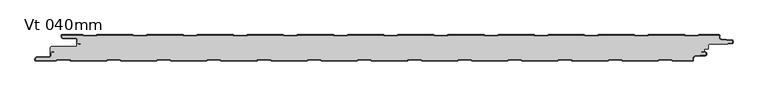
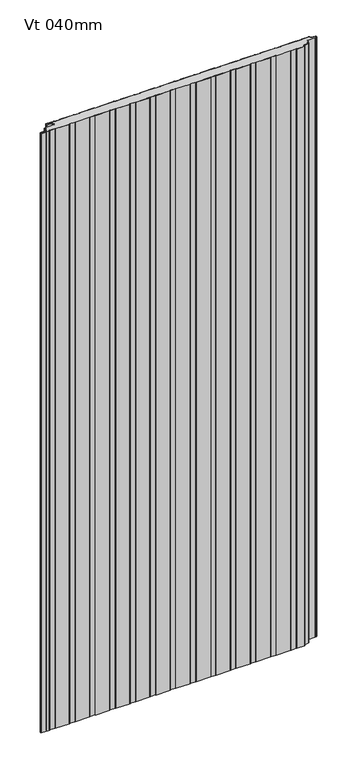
"""IFC4 building model written with IfcOpenShell, lengths in millimetres: plate geometry, KIP-MEX-FW-R19-CP-Vt-SL : Vt 040mm."""

from ifc_helpers import new_model, si_unit, point, frame_2d, origin, origin_with_axes, place, context, project, spatial, polyline, circle_curve, trimmed, segment, composite_curve, outline, extrude, source, transform, mapped, element, save


def vt_040mm_eb3b59d4(model_context):
    return source(origin(), model_context, "Body", "SweptSolid", [
        extrude(outline(composite_curve([segment(trimmed(circle_curve(frame_2d((500.9783297, -16.1665726)), 2.0000146), [point((500.9783297, -14.166558))], [point((498.9783151, -16.1665726))], True, "CARTESIAN"), True, "CONTINUOUS"), segment(polyline([(498.9783151, -16.1665726), (498.9783151, -20.7508382)]), True, "CONTINUOUS"), segment(trimmed(circle_curve(frame_2d((497.9783141, -20.7508382)), 1.0000009), [point((498.9783151, -20.7508382))], [point((497.9783141, -21.7508392))], False, "CARTESIAN"), True, "CONTINUOUS"), segment(polyline([(497.9783141, -21.7508392), (492.7282913, -21.7508392), (492.7282913, -26.1909155), (488.6576517, -25.8347828), (488.5704965, -26.8309775), (494.3590279, -27.3374055)]), True, "CONTINUOUS"), segment(trimmed(circle_curve(frame_2d((494.228289, -28.8317673)), 1.50007), [point((494.3590279, -27.3374055))], [point((495.4949849, -28.028218))], False, "CARTESIAN"), True, "CONTINUOUS"), segment(polyline([(495.4949849, -28.028218), (495.4949849, -30.4105427)]), True, "CONTINUOUS"), segment(trimmed(circle_curve(frame_2d((494.228289, -29.6069933)), 1.50007), [point((495.4949849, -30.4105427))], [point((494.3590282, -31.1013552))], False, "CARTESIAN"), True, "CONTINUOUS"), segment(polyline([(494.3590282, -31.1013552), (478.2363019, -32.511906)]), True, "CONTINUOUS"), segment(trimmed(circle_curve(frame_2d((478.4977739, -35.5005555)), 3.0000656), [point((478.2363019, -32.511906))], [point((475.4977083, -35.5005555))], True, "CARTESIAN"), True, "CONTINUOUS"), segment(polyline([(475.4977083, -35.5005555), (475.4977083, -39.000497), (444.7191033, -39.000497), (443.6340048, -37.8014618), (423.7020265, -37.8014618), (422.6155022, -39.0009609), (368.5676443, -39.0009609), (367.48112, -37.8014618), (347.5491417, -37.8014618), (346.4626174, -39.0009609), (292.4147596, -39.0009609), (291.3282353, -37.8014618), (271.396257, -37.8014618), (270.3097327, -39.0009609), (216.2618748, -39.0009609), (215.1753505, -37.8014618), (195.2433722, -37.8014618), (194.1568479, -39.0009609), (140.10899, -39.0009609), (139.0224658, -37.8014618), (119.0904874, -37.8014618), (118.0039632, -39.0009609), (63.9561053, -39.0009609), (62.869581, -37.8014618), (42.9376027, -37.8014618), (41.8510784, -39.0009609), (-12.1967795, -39.0009609), (-13.2833038, -37.8014618), (-33.2152821, -37.8014618), (-34.3018064, -39.0009609), (-88.3496642, -39.0009609), (-89.4361885, -37.8014618), (-109.3681669, -37.8014618), (-110.4546911, -39.0009609), (-164.502549, -39.0009609), (-165.5890733, -37.8014618), (-185.5210516, -37.8014618), (-186.6075759, -39.0009609), (-240.6554338, -39.0009609), (-241.741958, -37.8014618), (-261.6739364, -37.8014618), (-262.7604607, -39.0009609), (-316.8083185, -39.0009609), (-317.8948428, -37.8014618), (-337.8268211, -37.8014618), (-338.9133454, -39.0009609), (-392.9612033, -39.0009609), (-394.0477276, -37.8014618), (-413.9797059, -37.8014618), (-415.0662302, -39.0009609), (-469.1112369, -39.0009609), (-470.1991867, -37.799888), (-490.1311651, -37.799888), (-491.2176894, -38.9993871), (-522.5021472, -38.9993871), (-522.5021472, -37.5006639)]), True, "CONTINUOUS"), segment(trimmed(circle_curve(frame_2d((-520.0023509, -37.5006639)), 2.4997964), [point((-522.5021472, -37.5006639))], [point((-520.0023509, -35.0008676))], False, "CARTESIAN"), True, "CONTINUOUS"), segment(polyline([(-520.0023509, -35.0008676), (-502.0013909, -35.0008676)]), True, "CONTINUOUS"), segment(trimmed(circle_curve(frame_2d((-502.0013909, -32.000146)), 3.0007216), [point((-502.0013909, -35.0008676))], [point((-499.0006702, -32.0023906))], True, "CARTESIAN"), True, "CONTINUOUS"), segment(polyline([(-499.0006702, -32.0023906), (-499.0006702, -28.4060224)]), True, "CONTINUOUS"), segment(trimmed(circle_curve(frame_2d((-497.5003, -28.4060224)), 1.5003702), [point((-499.0006702, -28.4060224))], [point((-497.7599015, -26.9282816))], False, "CARTESIAN"), True, "CONTINUOUS"), segment(polyline([(-497.7599015, -26.9282816), (-494.2177275, -26.3060118), (-494.3907152, -25.321306), (-497.9325337, -25.9435134)]), True, "CONTINUOUS"), segment(trimmed(circle_curve(frame_2d((-497.4999652, -28.4058419)), 2.5000354), [point((-497.9325337, -25.9435134))], [point((-500.0000002, -28.4043575))], True, "CARTESIAN"), True, "CONTINUOUS"), segment(polyline([(-500.0000002, -28.4043575), (-500.0000002, -20.2508434)]), True, "CONTINUOUS"), segment(trimmed(circle_curve(frame_2d((-497.9999885, -20.2508434)), 2.0000117), [point((-500.0000002, -20.2508434))], [point((-497.9999885, -18.2508317))], False, "CARTESIAN"), True, "CONTINUOUS"), segment(polyline([(-497.9999885, -18.2508317), (-461.9999862, -18.2508317)]), True, "CONTINUOUS"), segment(trimmed(circle_curve(frame_2d((-461.9999862, -16.2508396)), 1.9999921), [point((-461.9999862, -18.2508317))], [point((-459.9999941, -16.2508396))], True, "CARTESIAN"), True, "CONTINUOUS"), segment(polyline([(-459.9999941, -16.2508396), (-459.9999941, -11.5969833)]), True, "CONTINUOUS"), segment(trimmed(circle_curve(frame_2d((-457.4999722, -11.5955126)), 2.5000223), [point((-459.9999941, -11.5969833))], [point((-457.9325372, -14.0578284))], True, "CARTESIAN"), True, "CONTINUOUS"), segment(polyline([(-457.9325372, -14.0578284), (-454.3907164, -14.6800343), (-454.2177293, -13.6953293), (-457.7599069, -13.0730607)]), True, "CONTINUOUS"), segment(trimmed(circle_curve(frame_2d((-457.5003083, -11.5953315)), 1.5003583), [point((-457.7599069, -13.0730607))], [point((-459.0006665, -11.5953315))], False, "CARTESIAN"), True, "CONTINUOUS"), segment(polyline([(-459.0006665, -11.5953315), (-459.0006665, -7.9991027)]), True, "CONTINUOUS"), segment(trimmed(circle_curve(frame_2d((-462.0013897, -8.0011955)), 3.0007239), [point((-459.0006665, -7.9991027))], [point((-462.0013897, -5.0004716))], True, "CARTESIAN"), True, "CONTINUOUS"), segment(polyline([(-462.0013897, -5.0004716), (-480.0023525, -5.0004716)]), True, "CONTINUOUS"), segment(trimmed(circle_curve(frame_2d((-480.0023525, -2.5006761)), 2.4997955), [point((-480.0023525, -5.0004716))], [point((-482.5021468, -2.4982924))], False, "CARTESIAN"), True, "CONTINUOUS"), segment(polyline([(-482.5021468, -2.4982924), (-482.5021468, -1.0030389), (-451.2001499, -1.0030389), (-450.1136256, -2.202538), (-430.1816473, -2.202538), (-429.0936975, -1.0014651), (-375.0486907, -1.0014651), (-373.9621665, -2.2009642), (-354.0301881, -2.2009642), (-352.9436639, -1.0014651), (-298.895806, -1.0014651), (-297.8092817, -2.2009642), (-277.8773034, -2.2009642), (-276.7922049, -1.0014651), (-222.7429212, -1.0014651), (-221.6563969, -2.2009642), (-201.7244186, -2.2009642), (-200.6393201, -1.0014651), (-146.5900365, -1.0014651), (-145.5035122, -2.2009642), (-125.5715339, -2.2009642), (-124.4850096, -1.0014651), (-70.4371517, -1.0014651), (-69.3506274, -2.2009642), (-49.4186491, -2.2009642), (-48.3321248, -1.0014651), (5.7157331, -1.0014651), (6.8022573, -2.2009642), (26.7342357, -2.2009642), (27.8207599, -1.0014651), (81.8686178, -1.0014651), (82.9551421, -2.2009642), (102.8871204, -2.2009642), (103.9722189, -1.0014651), (158.0215026, -1.0014651), (159.1080269, -2.2009642), (179.0400052, -2.2009642), (180.1251037, -1.0014651), (234.1743873, -1.0014651), (235.2609116, -2.2009642), (255.1928899, -2.2009642), (256.2779885, -1.0014651), (310.3272721, -1.0014651), (311.4137964, -2.2009642), (331.3457747, -2.2009642), (332.4308732, -1.0014651), (386.4801569, -1.0014651), (387.5666811, -2.2009642), (407.4986595, -2.2009642), (408.5851837, -1.0014651), (462.6330416, -1.0014651), (463.7195659, -2.2009642), (483.6515442, -2.2009642), (484.7366427, -1.0008336), (515.4976697, -1.0008336), (515.4976697, -4.5007907)]), True, "CONTINUOUS"), segment(trimmed(circle_curve(frame_2d((518.4977212, -4.5007907)), 3.0000515), [point((515.4976697, -4.5007907))], [point((518.236249, -7.4894261))], True, "CARTESIAN"), True, "CONTINUOUS"), segment(polyline([(518.236249, -7.4894261), (534.3589903, -8.8999856)]), True, "CONTINUOUS"), segment(trimmed(circle_curve(frame_2d((534.2282504, -10.3943474)), 1.50007), [point((534.3589903, -8.8999856))], [point((535.60777, -9.8051653))], False, "CARTESIAN"), True, "CONTINUOUS"), segment(polyline([(535.60777, -9.8051653), (535.60777, -11.7587555)]), True, "CONTINUOUS"), segment(trimmed(circle_curve(frame_2d((534.2282504, -11.1695734)), 1.50007), [point((535.60777, -11.7587555))], [point((534.3589893, -12.6639353))], False, "CARTESIAN"), True, "CONTINUOUS"), segment(polyline([(534.3589893, -12.6639353), (528.57059, -13.1703517), (528.6576132, -14.166558), (500.9783297, -14.166558)]), True, "CONTINUOUS")], self_intersect=False)), origin_with_axes(), (0.0, 0.0, 1.0), 2400.0),
        extrude(outline(composite_curve([segment(trimmed(circle_curve(frame_2d((534.2282504, -10.3918055)), 2.50007), [point((534.4461462, -7.9012491))], [point((536.6327024, -9.7069984))], False, "CARTESIAN"), True, "CONTINUOUS"), segment(polyline([(536.6327024, -9.7069984), (536.6327024, -11.8518387)]), True, "CONTINUOUS"), segment(trimmed(circle_curve(frame_2d((534.2282504, -11.1670315)), 2.50007), [point((536.6327024, -11.8518387))], [point((534.4461446, -13.6575882))], False, "CARTESIAN"), True, "CONTINUOUS"), segment(polyline([(534.4461446, -13.6575882), (528.6576132, -14.1640161), (528.5704579, -13.1678214), (534.3589893, -12.6613934)]), True, "CONTINUOUS"), segment(trimmed(circle_curve(frame_2d((534.2282504, -11.1670315)), 1.50007), [point((534.3589893, -12.6613934))], [point((535.60777, -11.7562137))], True, "CARTESIAN"), True, "CONTINUOUS"), segment(polyline([(535.60777, -11.7562137), (535.60777, -9.8026234)]), True, "CONTINUOUS"), segment(trimmed(circle_curve(frame_2d((534.2282504, -10.3918055)), 1.50007), [point((535.60777, -9.8026234))], [point((534.3589903, -8.8974438))], True, "CARTESIAN"), True, "CONTINUOUS"), segment(polyline([(534.3589903, -8.8974438), (518.236249, -7.4868842)]), True, "CONTINUOUS"), segment(trimmed(circle_curve(frame_2d((518.4977212, -4.4982488)), 3.0000515), [point((518.236249, -7.4868842))], [point((515.4976697, -4.4982488))], False, "CARTESIAN"), True, "CONTINUOUS"), segment(polyline([(515.4976697, -4.4982488), (515.4976697, -0.9982918), (484.7366427, -0.9982918), (483.6515442, -2.1984224), (463.7195659, -2.1984224), (462.6330416, -0.9989232), (408.5851837, -0.9989232), (407.4986595, -2.1984224), (387.5666811, -2.1984224), (386.4801569, -0.9989232), (332.432299, -0.9989232), (331.3457747, -2.1984224), (311.4137964, -2.1984224), (310.3272721, -0.9989232), (256.2779885, -0.9989232), (255.1928899, -2.1984224), (235.2609116, -2.1984224), (234.1743873, -0.9989232), (180.1265295, -0.9989232), (179.0400052, -2.1984224), (159.1080269, -2.1984224), (158.0215026, -0.9989232), (103.9722189, -0.9989232), (102.8871204, -2.1984224), (82.9551421, -2.1984224), (81.8686178, -0.9989232), (27.8207599, -0.9989232), (26.7342357, -2.1984224), (6.8022573, -2.1984224), (5.7157331, -0.9989232), (-48.3335506, -0.9989232), (-49.4186491, -2.1984224), (-69.3506274, -2.1984224), (-70.4371517, -0.9989232), (-124.4864353, -0.9989232), (-125.5715339, -2.1984224), (-145.5035122, -2.1984224), (-146.5900365, -0.9989232), (-200.6378943, -0.9989232), (-201.7244186, -2.1984224), (-221.6563969, -2.1984224), (-222.7429212, -0.9989232), (-276.7907791, -0.9989232), (-277.8773034, -2.1984224), (-297.8092817, -2.1984224), (-298.895806, -0.9989232), (-352.9436639, -0.9989232), (-354.0301881, -2.1984224), (-373.9621665, -2.1984224), (-375.0486907, -0.9989232), (-429.0936975, -0.9989232), (-430.1816473, -2.1999962), (-450.1136256, -2.1999962), (-451.198772, -0.9983019), (-482.5021495, -0.9983019), (-482.5021495, -2.4981361)]), True, "CONTINUOUS"), segment(trimmed(circle_curve(frame_2d((-480.0023517, -2.4981361)), 2.4997977), [point((-482.5021495, -2.4981361))], [point((-480.0023517, -4.9979338))], True, "CARTESIAN"), True, "CONTINUOUS"), segment(polyline([(-480.0023517, -4.9979338), (-462.0013975, -4.9979338)]), True, "CONTINUOUS"), segment(trimmed(circle_curve(frame_2d((-462.0013975, -7.9986497)), 3.0007159), [point((-462.0013975, -4.9979338))], [point((-459.0006824, -7.996557))], False, "CARTESIAN"), True, "CONTINUOUS"), segment(polyline([(-459.0006824, -7.996557), (-459.0006824, -11.5928161)]), True, "CONTINUOUS"), segment(trimmed(circle_curve(frame_2d((-457.5002995, -11.5928161)), 1.5003829), [point((-459.0006824, -11.5928161))], [point((-457.7598389, -13.0705807))], True, "CARTESIAN"), True, "CONTINUOUS"), segment(polyline([(-457.7598389, -13.0705807), (-454.2177322, -13.69268), (-454.3907145, -14.6776058), (-457.9328225, -14.0555062)]), True, "CONTINUOUS"), segment(trimmed(circle_curve(frame_2d((-457.5003007, -11.5928154)), 2.5003842), [point((-457.9328225, -14.0555062))], [point((-460.0006844, -11.5942862))], False, "CARTESIAN"), True, "CONTINUOUS"), segment(polyline([(-460.0006844, -11.5942862), (-460.0006844, -7.9971513)]), True, "CONTINUOUS"), segment(trimmed(circle_curve(frame_2d((-462.0013951, -7.9986553)), 2.0007112), [point((-460.0006844, -7.9971513))], [point((-462.0013951, -5.9979441))], True, "CARTESIAN"), True, "CONTINUOUS"), segment(polyline([(-462.0013951, -5.9979441), (-480.0023719, -5.9979441)]), True, "CONTINUOUS"), segment(trimmed(circle_curve(frame_2d((-480.0023719, -2.4981261)), 3.499818), [point((-480.0023719, -5.9979441))], [point((-483.5021899, -2.4981261))], False, "CARTESIAN"), True, "CONTINUOUS"), segment(polyline([(-483.5021899, -2.4981261), (-483.5021899, -1.4982802)]), True, "CONTINUOUS"), segment(trimmed(circle_curve(frame_2d((-482.0022451, -1.4982802)), 1.4999449), [point((-483.5021899, -1.4982802))], [point((-481.8959821, -0.0021042))], False, "CARTESIAN"), True, "CONTINUOUS"), segment(polyline([(-481.8959821, -0.0021042), (-450.75528, -0.0021042), (-449.6701813, -1.1999962), (-430.6250917, -1.1999962), (-429.5385674, -0.000497), (-374.6038208, -0.000497), (-373.5187221, -1.1984224), (-354.4736325, -1.1984224), (-353.3871082, -0.000497), (-298.450936, -0.000497), (-297.3658373, -1.1984224), (-278.3207477, -1.1984224), (-277.2342235, -0.000497), (-222.2980513, -0.000497), (-221.2129526, -1.1984224), (-202.167863, -1.1984224), (-201.0813387, -0.000497), (-146.1451665, -0.000497), (-145.0600678, -1.1984224), (-126.0149782, -1.1984224), (-124.9284539, -0.000497), (-69.9922817, -0.000497), (-68.907183, -1.1984224), (-49.8620935, -1.1984224), (-48.7755692, -0.000497), (6.160603, -0.000497), (7.2457017, -1.1984224), (26.2907913, -1.1984224), (27.3773156, -0.000497), (82.3134878, -0.000497), (83.3985865, -1.1984224), (102.4436761, -1.1984224), (103.5302003, -0.000497), (158.4663725, -0.000497), (159.5514712, -1.1984224), (178.5965608, -1.1984224), (179.6830851, -0.000497), (234.6192573, -0.000497), (235.704356, -1.1984224), (254.7494456, -1.1984224), (255.8359699, -0.000497), (310.7721421, -0.000497), (311.8572408, -1.1984224), (330.9023303, -1.1984224), (331.9888546, -0.000497), (386.9250268, -0.000497), (388.0101255, -1.1984224), (407.0552151, -1.1984224), (408.1417394, -0.000497), (463.0779116, -0.000497), (464.1630103, -1.1984224), (483.2080999, -1.1984224), (484.2946241, 0.0016981), (514.9977637, 0.0016981)]), True, "CONTINUOUS"), segment(trimmed(circle_curve(frame_2d((514.9977637, -1.4982079)), 1.499906), [point((514.9977637, 0.0016981))], [point((516.4976697, -1.4982079))], False, "CARTESIAN"), True, "CONTINUOUS"), segment(polyline([(516.4976697, -1.4982079), (516.4976697, -4.4982488)]), True, "CONTINUOUS"), segment(trimmed(circle_curve(frame_2d((518.4977212, -4.4982488)), 2.0000515), [point((516.4976697, -4.4982488))], [point((518.3234049, -6.4906895))], True, "CARTESIAN"), True, "CONTINUOUS"), segment(polyline([(518.3234049, -6.4906895), (534.4461462, -7.9012491)]), True, "CONTINUOUS")], self_intersect=False)), origin_with_axes(), (0.0, 0.0, 1.0), 2400.0),
        extrude(outline(composite_curve([segment(trimmed(circle_curve(frame_2d((494.228289, -28.8313034)), 2.50007), [point((494.4461832, -26.3407468))], [point((496.6282243, -28.1308319))], False, "CARTESIAN"), True, "CONTINUOUS"), segment(polyline([(496.6282243, -28.1308319), (496.6282243, -30.3070009)]), True, "CONTINUOUS"), segment(trimmed(circle_curve(frame_2d((494.228289, -29.6065294)), 2.50007), [point((496.6282243, -30.3070009))], [point((494.4461873, -32.0970856))], False, "CARTESIAN"), True, "CONTINUOUS"), segment(polyline([(494.4461873, -32.0970856), (478.3234839, -33.5076584)]), True, "CONTINUOUS"), segment(trimmed(circle_curve(frame_2d((478.4978006, -35.5000809)), 2.0000334), [point((478.3234839, -33.5076584))], [point((476.4977672, -35.5000809))], True, "CARTESIAN"), True, "CONTINUOUS"), segment(polyline([(476.4977672, -35.5000809), (476.4977672, -38.5002428)]), True, "CONTINUOUS"), segment(trimmed(circle_curve(frame_2d((474.9977447, -38.5002428)), 1.5000225), [point((476.4977672, -38.5002428))], [point((474.9977447, -40.0002654))], False, "CARTESIAN"), True, "CONTINUOUS"), segment(polyline([(474.9977447, -40.0002654), (444.2770847, -40.0002654), (443.1905604, -38.8009978), (424.1454708, -38.8009978), (423.0603721, -40.000497), (368.1241999, -40.000497), (367.0376757, -38.8009978), (347.9925861, -38.8009978), (346.9074874, -40.000497), (291.9713152, -40.000497), (290.8847909, -38.8009978), (271.8397013, -38.8009978), (270.7546026, -40.000497), (215.8184304, -40.000497), (214.7319061, -38.8009978), (195.6868166, -38.8009978), (194.6017179, -40.000497), (139.6655457, -40.000497), (138.5790214, -38.8009978), (119.5339318, -38.8009978), (118.4488331, -40.000497), (63.5126609, -40.000497), (62.4261366, -38.8009978), (43.381047, -38.8009978), (42.2959483, -40.000497), (-12.6402239, -40.000497), (-13.7267481, -38.8009978), (-32.7718377, -38.8009978), (-33.8569364, -40.000497), (-88.7931086, -40.000497), (-89.8796329, -38.8009978), (-108.9247225, -38.8009978), (-110.0098212, -40.000497), (-164.9459934, -40.000497), (-166.0325177, -38.8009978), (-185.0776072, -38.8009978), (-186.1627059, -40.000497), (-241.0988781, -40.000497), (-242.1854024, -38.8009978), (-261.230492, -38.8009978), (-262.3155907, -40.000497), (-317.2517629, -40.000497), (-318.3382872, -38.8009978), (-337.3833768, -38.8009978), (-338.4684755, -40.000497), (-393.4046477, -40.000497), (-394.4911719, -38.8009978), (-413.5362615, -38.8009978), (-414.6213602, -39.9989232), (-469.5561068, -39.9989232), (-470.6426311, -38.799424), (-489.6877207, -38.799424), (-490.7728194, -40.0), (-522.0022446, -40.0)]), True, "CONTINUOUS"), segment(trimmed(circle_curve(frame_2d((-522.0022446, -38.5000545)), 1.4999455), [point((-522.0022446, -40.0))], [point((-523.50219, -38.5000545))], False, "CARTESIAN"), True, "CONTINUOUS"), segment(polyline([(-523.50219, -38.5000545), (-523.50219, -37.5002085)]), True, "CONTINUOUS"), segment(trimmed(circle_curve(frame_2d((-520.0023708, -37.5002085)), 3.4998192), [point((-523.50219, -37.5002085))], [point((-520.0023708, -34.0003893))], False, "CARTESIAN"), True, "CONTINUOUS"), segment(polyline([(-520.0023708, -34.0003893), (-502.0013961, -34.0003893)]), True, "CONTINUOUS"), segment(trimmed(circle_curve(frame_2d((-502.0013961, -31.9996807)), 2.0007086), [point((-502.0013961, -34.0003893))], [point((-500.0006881, -32.0011773))], True, "CARTESIAN"), True, "CONTINUOUS"), segment(polyline([(-500.0006881, -32.0011773), (-500.0006881, -28.4040483)]), True, "CONTINUOUS"), segment(trimmed(circle_curve(frame_2d((-497.5002926, -28.4055328)), 2.500396), [point((-500.0006881, -28.4040483))], [point((-497.932818, -25.9428306))], False, "CARTESIAN"), True, "CONTINUOUS"), segment(polyline([(-497.932818, -25.9428306), (-494.3907133, -25.3207292), (-494.2177304, -26.3056549), (-497.7598337, -26.927756)]), True, "CONTINUOUS"), segment(trimmed(circle_curve(frame_2d((-497.5002913, -28.405532)), 1.5003947), [point((-497.7598337, -26.927756))], [point((-499.0006859, -28.405532))], True, "CARTESIAN"), True, "CONTINUOUS"), segment(polyline([(-499.0006859, -28.405532), (-499.0006859, -32.0019305)]), True, "CONTINUOUS"), segment(trimmed(circle_curve(frame_2d((-502.0013988, -31.9996859)), 3.0007137), [point((-499.0006859, -32.0019305))], [point((-502.0013988, -35.0003996))], False, "CARTESIAN"), True, "CONTINUOUS"), segment(polyline([(-502.0013988, -35.0003996), (-520.0023501, -35.0003996)]), True, "CONTINUOUS"), segment(trimmed(circle_curve(frame_2d((-520.0023501, -37.5001981)), 2.4997986), [point((-520.0023501, -35.0003996))], [point((-522.5021487, -37.5001981))], True, "CARTESIAN"), True, "CONTINUOUS"), segment(polyline([(-522.5021487, -37.5001981), (-522.5021487, -38.9989232), (-491.2176894, -38.9989232), (-490.1311651, -37.799424), (-470.1991867, -37.799424), (-469.1112369, -39.000497), (-415.0662302, -39.000497), (-413.9797059, -37.8009978), (-394.0477276, -37.8009978), (-392.9612033, -39.000497), (-338.9133454, -39.000497), (-337.8268211, -37.8009978), (-317.8948428, -37.8009978), (-316.8083185, -39.000497), (-262.7604607, -39.000497), (-261.6739364, -37.8009978), (-241.741958, -37.8009978), (-240.6554338, -39.000497), (-186.6075759, -39.000497), (-185.5210516, -37.8009978), (-165.5890733, -37.8009978), (-164.502549, -39.000497), (-110.4546911, -39.000497), (-109.3681669, -37.8009978), (-89.4361885, -37.8009978), (-88.3496642, -39.000497), (-34.3018064, -39.000497), (-33.2152821, -37.8009978), (-13.2833038, -37.8009978), (-12.1967795, -39.000497), (41.8510784, -39.000497), (42.9376027, -37.8009978), (62.869581, -37.8009978), (63.9561053, -39.000497), (118.0039632, -39.000497), (119.0904874, -37.8009978), (139.0224658, -37.8009978), (140.10899, -39.000497), (194.1568479, -39.000497), (195.2433722, -37.8009978), (215.1753505, -37.8009978), (216.2618748, -39.000497), (270.3097327, -39.000497), (271.396257, -37.8009978), (291.3282353, -37.8009978), (292.4147596, -39.000497), (346.4626174, -39.000497), (347.5491417, -37.8009978), (367.48112, -37.8009978), (368.5676443, -39.000497), (422.6155022, -39.000497), (423.7020265, -37.8009978), (443.6340048, -37.8009978), (444.7191033, -39.0000331), (475.4977083, -39.0000331), (475.4977083, -35.5000916)]), True, "CONTINUOUS"), segment(trimmed(circle_curve(frame_2d((478.4977739, -35.5000916)), 3.0000656), [point((475.4977083, -35.5000916))], [point((478.2363019, -32.511442))], False, "CARTESIAN"), True, "CONTINUOUS"), segment(polyline([(478.2363019, -32.511442), (494.3590282, -31.1008912)]), True, "CONTINUOUS"), segment(trimmed(circle_curve(frame_2d((494.228289, -29.6065294)), 1.50007), [point((494.3590282, -31.1008912))], [point((495.4949849, -30.4100787))], True, "CARTESIAN"), True, "CONTINUOUS"), segment(polyline([(495.4949849, -30.4100787), (495.4949849, -28.027754)]), True, "CONTINUOUS"), segment(trimmed(circle_curve(frame_2d((494.228289, -28.8313034)), 1.50007), [point((495.4949849, -28.027754))], [point((494.3590279, -27.3369415))], True, "CARTESIAN"), True, "CONTINUOUS"), segment(polyline([(494.3590279, -27.3369415), (488.5704965, -26.8305136), (488.6576517, -25.8343188), (494.4461832, -26.3407468)]), True, "CONTINUOUS")], self_intersect=False)), origin_with_axes(), (0.0, 0.0, 1.0), 2400.0),
    ])


if __name__ == "__main__":
    model = new_model("IFC4")
    model_context = context("Model", 3, world=origin())
    ifc_project = project(units=[si_unit("LENGTHUNIT", "METRE", prefix="MILLI")], contexts=[model_context])
    site = spatial("IfcSite", under=ifc_project)
    building = spatial("IfcBuilding", under=site)
    placement = place(None, origin())
    vt_040mm_shape = vt_040mm_eb3b59d4(model_context)
    element("IfcPlate", 1, ObjectType="KIP-MEX-FW-R19-CP-Vt-SL : Vt 040mm", at=placement, inside=building, context=model_context, shape_type="MappedRepresentation", body=[
        mapped(vt_040mm_shape, transform((0.0, 0.0, 0.0), x_axis=(1.0, 0.0, 0.0), y_axis=(0.0, 1.0, 0.0), z_axis=(0.0, 0.0, 1.0))),
    ])
    save(model, "model.ifc")
